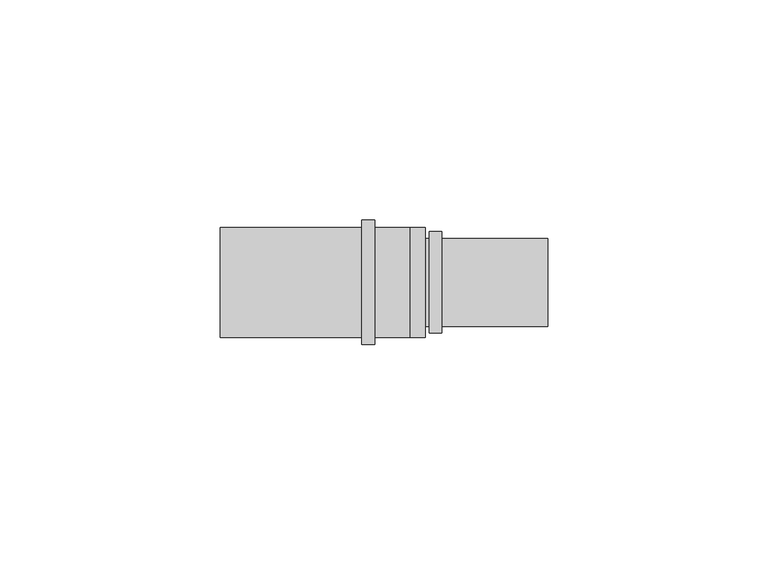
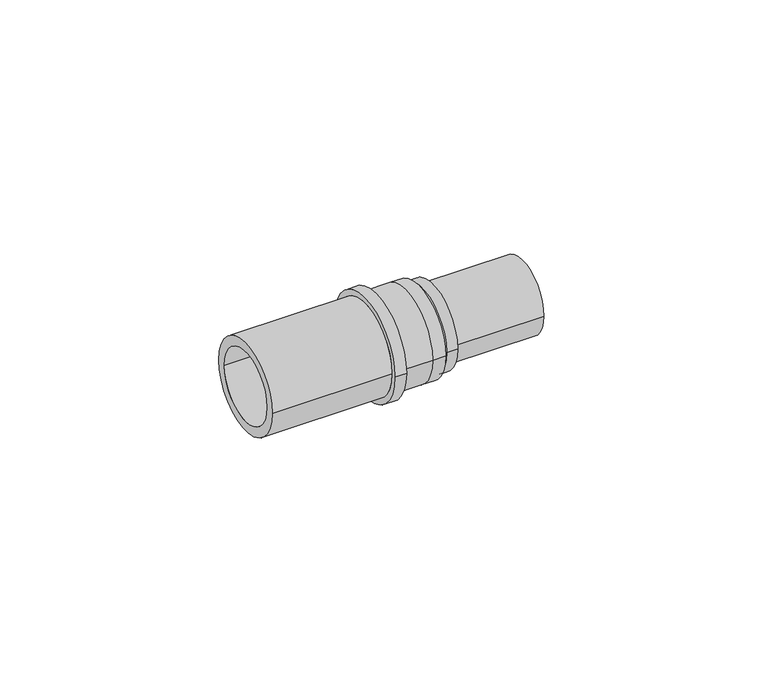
"""IFC4 building model written with IfcOpenShell, lengths in millimetres: pipe fitting geometry, FASTLOC_Coupling reduced LX : FSL C LX PL."""

from ifc_helpers import new_model, si_unit, frame, origin, place, context, project, spatial, polyline, circle_curve, source, transform, mapped, element, save
from ifc_brep_helpers import plane_surface, cylinder_surface, revolved_surface, advanced_brep


def pipe_fitting_08e86eaf(model_context):
    return source(origin(), model_context, "Body", "AdvancedBrep", [
        advanced_brep(
        [(-1.5, 12.5, 0.0), (-1.5, -12.5, 0.0), (-9.4, -12.5, 0.0), (-9.4, 12.5, 0.0), (-9.4, 14.1, 0.0), (-9.4, -14.1, 0.0), (-12.4, -14.1, 0.0), (-12.4, 14.1, 0.0), (-12.4, 12.5, 0.0), (-12.4, -12.5, 0.0), (-44.4, -12.5, 0.0), (-44.4, 12.5, 0.0), (-44.4, 9.85, 0.0), (-44.4, -9.85, 0.0), (-1.5, -9.85, 0.0), (-1.5, 9.85, 0.0), (-1.5, 7.75, 0.0), (-1.5, -7.75, 0.0), (29.8, -7.75, 0.0), (29.8, 7.75, 0.0), (29.8, 9.9729189, 0.0), (29.8, -9.9729189, 0.0), (5.8, -9.9729189, 0.0), (5.8, 9.9729189, 0.0), (5.8, 11.5, 0.0), (5.8, -11.5, 0.0), (3.0, -11.5, 0.0), (3.0, 11.5, 0.0), (3.0, 10.0, 0.0), (3.0, -10.0, 0.0), (2.0, -10.0, 0.0), (2.0, 10.0, 0.0), (2.0, 12.5, 0.0), (2.0, -12.5, 0.0)],
        [
            (0, 1, circle_curve(frame((-1.5, 0.0, 0.0), z_axis=(-1.0, 0.0, 0.0), x_axis=(0.0, -1.0, 0.0)), 12.5)),
            (1, 2),
            (2, 3, circle_curve(frame((-9.4, 0.0, 0.0), z_axis=(1.0, 0.0, 0.0), x_axis=(0.0, -1.0, 0.0)), 12.5)),
            (3, 0),
            (4, 5, circle_curve(frame((-9.4, 0.0, 0.0), z_axis=(-1.0, 0.0, 0.0), x_axis=(0.0, -1.0, 0.0)), 14.1)),
            (5, 6),
            (6, 7, circle_curve(frame((-12.4, 0.0, 0.0), z_axis=(1.0, 0.0, 0.0), x_axis=(0.0, -1.0, 0.0)), 14.1)),
            (7, 4),
            (8, 9, circle_curve(frame((-12.4, 0.0, 0.0), z_axis=(-1.0, 0.0, 0.0), x_axis=(0.0, -1.0, 0.0)), 12.5)),
            (9, 10),
            (10, 11, circle_curve(frame((-44.4, 0.0, 0.0), z_axis=(1.0, 0.0, 0.0), x_axis=(0.0, -1.0, 0.0)), 12.5)),
            (11, 8),
            (12, 13, circle_curve(frame((-44.4, 0.0, 0.0), z_axis=(-1.0, 0.0, 0.0), x_axis=(0.0, -1.0, 0.0)), 9.85)),
            (13, 14),
            (14, 15, circle_curve(frame((-1.5, 0.0, 0.0), z_axis=(1.0, 0.0, 0.0), x_axis=(0.0, -1.0, 0.0)), 9.85)),
            (15, 12),
            (1, 0, circle_curve(frame((-1.5, 0.0, 0.0), z_axis=(-1.0, 0.0, 0.0), x_axis=(0.0, 1.0, 0.0)), 12.5)),
            (3, 2, circle_curve(frame((-9.4, 0.0, 0.0), z_axis=(1.0, 0.0, 0.0), x_axis=(0.0, 1.0, 0.0)), 12.5)),
            (4, 5, circle_curve(frame((-9.4, 0.0, 0.0), z_axis=(1.0, 0.0, 0.0), x_axis=(0.0, 1.0, 0.0)), 14.1)),
            (7, 6, circle_curve(frame((-12.4, 0.0, 0.0), z_axis=(1.0, 0.0, 0.0), x_axis=(0.0, 1.0, 0.0)), 14.1)),
            (8, 9, circle_curve(frame((-12.4, 0.0, 0.0), z_axis=(1.0, 0.0, 0.0), x_axis=(0.0, 1.0, 0.0)), 12.5)),
            (11, 10, circle_curve(frame((-44.4, 0.0, 0.0), z_axis=(1.0, 0.0, 0.0), x_axis=(0.0, 1.0, 0.0)), 12.5)),
            (12, 13, circle_curve(frame((-44.4, 0.0, 0.0), z_axis=(1.0, 0.0, 0.0), x_axis=(0.0, 1.0, 0.0)), 9.85)),
            (15, 14, circle_curve(frame((-1.5, 0.0, 0.0), z_axis=(1.0, 0.0, 0.0), x_axis=(0.0, 1.0, 0.0)), 9.85)),
            (16, 17, circle_curve(frame((-1.5, 0.0, 0.0), z_axis=(-1.0, 0.0, 0.0), x_axis=(0.0, -1.0, 0.0)), 7.75)),
            (17, 18),
            (18, 19, circle_curve(frame((29.8, 0.0, 0.0), z_axis=(1.0, 0.0, 0.0), x_axis=(0.0, -1.0, 0.0)), 7.75)),
            (19, 16),
            (20, 21, circle_curve(frame((29.8, 0.0, 0.0), z_axis=(-1.0, 0.0, 0.0), x_axis=(0.0, -1.0, 0.0)), 9.9729189)),
            (21, 22),
            (22, 23, circle_curve(frame((5.8, 0.0, 0.0), z_axis=(1.0, 0.0, 0.0), x_axis=(0.0, -1.0, 0.0)), 9.9729189)),
            (23, 20),
            (24, 25, circle_curve(frame((5.8, 0.0, 0.0), z_axis=(-1.0, 0.0, 0.0), x_axis=(0.0, -1.0, 0.0)), 11.5)),
            (25, 26),
            (26, 27, circle_curve(frame((3.0, 0.0, 0.0), z_axis=(1.0, 0.0, 0.0), x_axis=(0.0, -1.0, 0.0)), 11.5)),
            (27, 24),
            (28, 29, circle_curve(frame((3.0, 0.0, 0.0), z_axis=(-1.0, 0.0, 0.0), x_axis=(0.0, -1.0, 0.0)), 10.0)),
            (29, 30),
            (30, 31, circle_curve(frame((2.0, 0.0, 0.0), z_axis=(1.0, 0.0, 0.0), x_axis=(0.0, -1.0, 0.0)), 10.0)),
            (31, 28),
            (32, 33, circle_curve(frame((2.0, 0.0, 0.0), z_axis=(-1.0, 0.0, 0.0), x_axis=(0.0, -1.0, 0.0)), 12.5)),
            (33, 1),
            (0, 32),
            (16, 17, circle_curve(frame((-1.5, 0.0, 0.0), z_axis=(1.0, 0.0, 0.0), x_axis=(0.0, 1.0, 0.0)), 7.75)),
            (19, 18, circle_curve(frame((29.8, 0.0, 0.0), z_axis=(1.0, 0.0, 0.0), x_axis=(0.0, 1.0, 0.0)), 7.75)),
            (20, 21, circle_curve(frame((29.8, 0.0, 0.0), z_axis=(1.0, 0.0, 0.0), x_axis=(0.0, 1.0, 0.0)), 9.9729189)),
            (23, 22, circle_curve(frame((5.8, 0.0, 0.0), z_axis=(1.0, 0.0, 0.0), x_axis=(0.0, 1.0, 0.0)), 9.9729189)),
            (24, 25, circle_curve(frame((5.8, 0.0, 0.0), z_axis=(1.0, 0.0, 0.0), x_axis=(0.0, 1.0, 0.0)), 11.5)),
            (27, 26, circle_curve(frame((3.0, 0.0, 0.0), z_axis=(1.0, 0.0, 0.0), x_axis=(0.0, 1.0, 0.0)), 11.5)),
            (28, 29, circle_curve(frame((3.0, 0.0, 0.0), z_axis=(1.0, 0.0, 0.0), x_axis=(0.0, 1.0, 0.0)), 10.0)),
            (31, 30, circle_curve(frame((2.0, 0.0, 0.0), z_axis=(1.0, 0.0, 0.0), x_axis=(0.0, 1.0, 0.0)), 10.0)),
            (32, 33, circle_curve(frame((2.0, 0.0, 0.0), z_axis=(1.0, 0.0, 0.0), x_axis=(0.0, 1.0, 0.0)), 12.5)),
        ],
        [
            cylinder_surface(frame((0.0, 0.0, 0.0), z_axis=(1.0, 0.0, 0.0), x_axis=(0.0, -1.0, 0.0)), 12.5),
            cylinder_surface(frame((0.0, 0.0, 0.0), z_axis=(1.0, 0.0, 0.0), x_axis=(0.0, -1.0, 0.0)), 14.1),
            revolved_surface(polyline([(-1.5, -9.85, 0.0), (-44.4, -9.85, 0.0)]), (0.0, 0.0, 0.0), (1.0, 0.0, 0.0)),
            cylinder_surface(frame((0.0, 0.0, 0.0), z_axis=(1.0, 0.0, 0.0), x_axis=(0.0, 1.0, 0.0)), 12.5),
            plane_surface(frame((-9.4, 0.0, 0.0), z_axis=(1.0, 0.0, 0.0), x_axis=(0.0, 1.0, 0.0))),
            cylinder_surface(frame((0.0, 0.0, 0.0), z_axis=(1.0, 0.0, 0.0), x_axis=(0.0, 1.0, 0.0)), 14.1),
            plane_surface(frame((-12.4, 0.0, 0.0), z_axis=(-1.0, 0.0, 0.0), x_axis=(0.0, 1.0, 0.0))),
            plane_surface(frame((-44.4, 0.0, 0.0), z_axis=(-1.0, 0.0, 0.0), x_axis=(0.0, 1.0, 0.0))),
            revolved_surface(polyline([(-1.5, 9.85, 0.0), (-44.4, 9.85, 0.0)]), (0.0, 0.0, 0.0), (1.0, 0.0, 0.0)),
            revolved_surface(polyline([(29.8, -7.75, 0.0), (-1.5, -7.75, 0.0)]), (0.0, 0.0, 0.0), (1.0, 0.0, 0.0)),
            cylinder_surface(frame((0.0, 0.0, 0.0), z_axis=(1.0, 0.0, 0.0), x_axis=(0.0, -1.0, 0.0)), 9.9729189),
            cylinder_surface(frame((0.0, 0.0, 0.0), z_axis=(1.0, 0.0, 0.0), x_axis=(0.0, -1.0, 0.0)), 11.5),
            cylinder_surface(frame((0.0, 0.0, 0.0), z_axis=(1.0, 0.0, 0.0), x_axis=(0.0, -1.0, 0.0)), 10.0),
            plane_surface(frame((-1.5, 0.0, 0.0), z_axis=(-1.0, 0.0, 0.0), x_axis=(0.0, 1.0, 0.0))),
            revolved_surface(polyline([(29.8, 7.75, 0.0), (-1.5, 7.75, 0.0)]), (0.0, 0.0, 0.0), (1.0, 0.0, 0.0)),
            plane_surface(frame((29.8, 0.0, 0.0), z_axis=(1.0, 0.0, 0.0), x_axis=(0.0, 1.0, 0.0))),
            cylinder_surface(frame((0.0, 0.0, 0.0), z_axis=(1.0, 0.0, 0.0), x_axis=(0.0, 1.0, 0.0)), 9.9729189),
            plane_surface(frame((5.8, 0.0, 0.0), z_axis=(1.0, 0.0, 0.0), x_axis=(0.0, 1.0, 0.0))),
            cylinder_surface(frame((0.0, 0.0, 0.0), z_axis=(1.0, 0.0, 0.0), x_axis=(0.0, 1.0, 0.0)), 11.5),
            plane_surface(frame((3.0, 0.0, 0.0), z_axis=(-1.0, 0.0, 0.0), x_axis=(0.0, 1.0, 0.0))),
            cylinder_surface(frame((0.0, 0.0, 0.0), z_axis=(1.0, 0.0, 0.0), x_axis=(0.0, 1.0, 0.0)), 10.0),
            plane_surface(frame((2.0, 0.0, 0.0), z_axis=(1.0, 0.0, 0.0), x_axis=(0.0, 1.0, 0.0))),
        ],
        [
            (0, [[1, 2, 3, 4]]),
            (1, [[5, 6, 7, 8]]),
            (0, [[9, 10, 11, 12]]),
            (2, [[13, 14, 15, 16]]),
            (3, [[17, -4, 18, -2]]),
            (4, [[19, -5], [-18, -3]]),
            (5, [[-19, -8, 20, -6]]),
            (6, [[-20, -7], [21, -9]]),
            (3, [[-21, -12, 22, -10]]),
            (7, [[-22, -11], [23, -13]]),
            (8, [[-23, -16, 24, -14]]),
            (9, [[25, 26, 27, 28]]),
            (10, [[29, 30, 31, 32]]),
            (11, [[33, 34, 35, 36]]),
            (12, [[37, 38, 39, 40]]),
            (0, [[41, 42, -1, 43]]),
            (13, [[-24, -15], [44, -25]]),
            (14, [[-44, -28, 45, -26]]),
            (15, [[46, -29], [-45, -27]]),
            (16, [[-46, -32, 47, -30]]),
            (17, [[48, -33], [-47, -31]]),
            (18, [[-48, -36, 49, -34]]),
            (19, [[-49, -35], [50, -37]]),
            (20, [[-50, -40, 51, -38]]),
            (21, [[52, -41], [-51, -39]]),
            (3, [[-52, -43, -17, -42]]),
        ],
    ),
    ])


if __name__ == "__main__":
    model = new_model("IFC4")
    model_context = context("Model", 3, world=origin())
    ifc_project = project(units=[si_unit("LENGTHUNIT", "METRE", prefix="MILLI")], contexts=[model_context])
    site = spatial("IfcSite", under=ifc_project)
    building = spatial("IfcBuilding", under=site)
    placement = place(None, origin())
    pipe_fitting_shape = pipe_fitting_08e86eaf(model_context)
    element("IfcPipeFitting", 1, ObjectType="FASTLOC_Coupling reduced LX : FSL C LX PL", at=placement, inside=building, context=model_context, shape_type="MappedRepresentation", body=[
        mapped(pipe_fitting_shape, transform((0.0, 0.0, 0.0), x_axis=(1.0, 0.0, 0.0), y_axis=(0.0, 1.0, 0.0), z_axis=(0.0, 0.0, 1.0))),
    ])
    save(model, "model.ifc")
